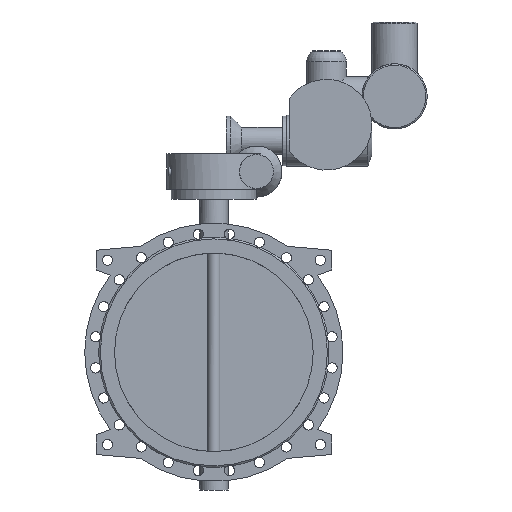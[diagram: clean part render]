
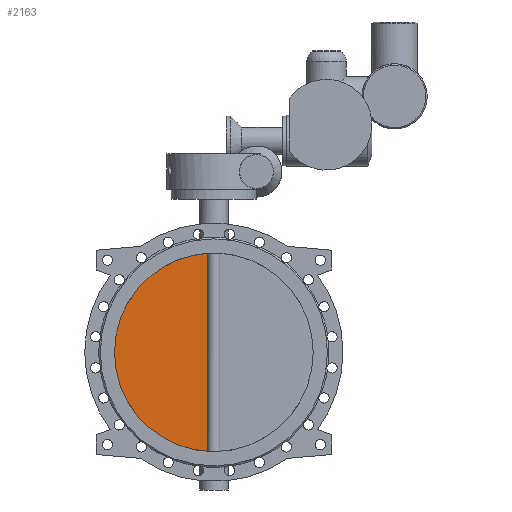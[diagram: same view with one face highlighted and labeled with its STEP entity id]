
A CAD part, front view. The second image highlights one B-rep face of the part: STEP entity #2163.
In plain terms, the highlighted planar face has unit normal (0, -1, 0).
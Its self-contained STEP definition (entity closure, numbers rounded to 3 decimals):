
#2163=ADVANCED_FACE('',(#4286),#4288,.T.);
#4286=FACE_BOUND('',#4287,.T.);
#4287=EDGE_LOOP('',(#5521,#5522));
#4288=PLANE('',#4289);
#4289=AXIS2_PLACEMENT_3D('',#4290,#4291,#4292);
#4290=CARTESIAN_POINT('',(0.,-7.5,0.));
#4291=DIRECTION('',(0.,-1.,0.));
#4292=DIRECTION('',(1.,0.,0.));
#5521=ORIENTED_EDGE('',*,*,#6129,.T.);
#5522=ORIENTED_EDGE('',*,*,#6138,.T.);
#6129=EDGE_CURVE('',#7210,#7208,#7211,.F.);
#6138=EDGE_CURVE('',#7208,#7210,#7226,.F.);
#7208=VERTEX_POINT('',#15768);
#7210=VERTEX_POINT('',#15875);
#7211=CIRCLE('',#15876,350.);
#7226=LINE('',#16195,#16196);
#15768=CARTESIAN_POINT('',(-21.213,-7.5,-349.357));
#15875=CARTESIAN_POINT('',(-21.213,-7.5,349.357));
#15876=AXIS2_PLACEMENT_3D('',#15877,#15878,#15879);
#15877=CARTESIAN_POINT('',(0.,-7.5,0.));
#15878=DIRECTION('',(0.,1.,0.));
#15879=DIRECTION('',(-0.061,0.,-0.998));
#16195=CARTESIAN_POINT('',(-21.213,-7.5,349.357));
#16196=VECTOR('',#16197,1.);
#16197=DIRECTION('',(0.,0.,-1.));
